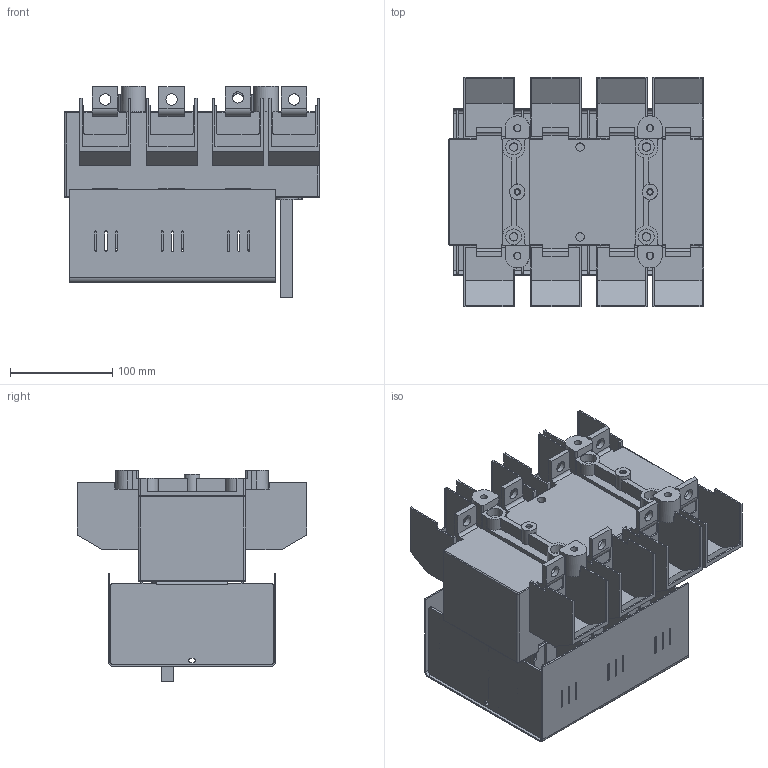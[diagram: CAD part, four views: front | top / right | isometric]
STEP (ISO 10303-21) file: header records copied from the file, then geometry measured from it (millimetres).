
FILE_DESCRIPTION(/* description */ (''),/* implementation_level */ '2;1');
FILE_NAME(/* name */ 'RAB 2 P3 NC z oslona zaciskow.stp',/* time_stamp */ '2021-08-19T14:24:51+02:00',/* author */ (''),/* organization */ (''),/* preprocessor_version */ 'ST-DEVELOPER v18.1',/* originating_system */ 'SIEMENS PLM Software NX 1965',/* authorisation */ '');
FILE_SCHEMA (('AUTOMOTIVE_DESIGN { 1 0 10303 214 3 1 1 1 }'));
Length unit declared in the file: millimetre
Products named in the file (1): RAB 2 P3 NC z oslona zaciskow_stp
Bounding box: 250 x 225 x 207.3 mm (x, y, z)
Volume: 2596467.7 mm3; surface area: 610396.5 mm2
Topology: 1 solids, 7 shells, 1374 faces, 3854 edges, 2506 vertices
Faces by surface type: plane 956, cylinder 410, torus 5, bspline 3
Full cylindrical faces by diameter (mm): 4.8 x2, 5.2 x18, 6.2 x2, 7 x4, 8.2 x6, 11 x8, 14 x4, 15 x2, 15.5 x4
Entity records: 44033 total; most frequent: CARTESIAN_POINT 7810, ORIENTED_EDGE 7592, DIRECTION 7400, EDGE_CURVE 3796, LINE 2912, VECTOR 2912, VERTEX_POINT 2498, AXIS2_PLACEMENT_3D 2244
